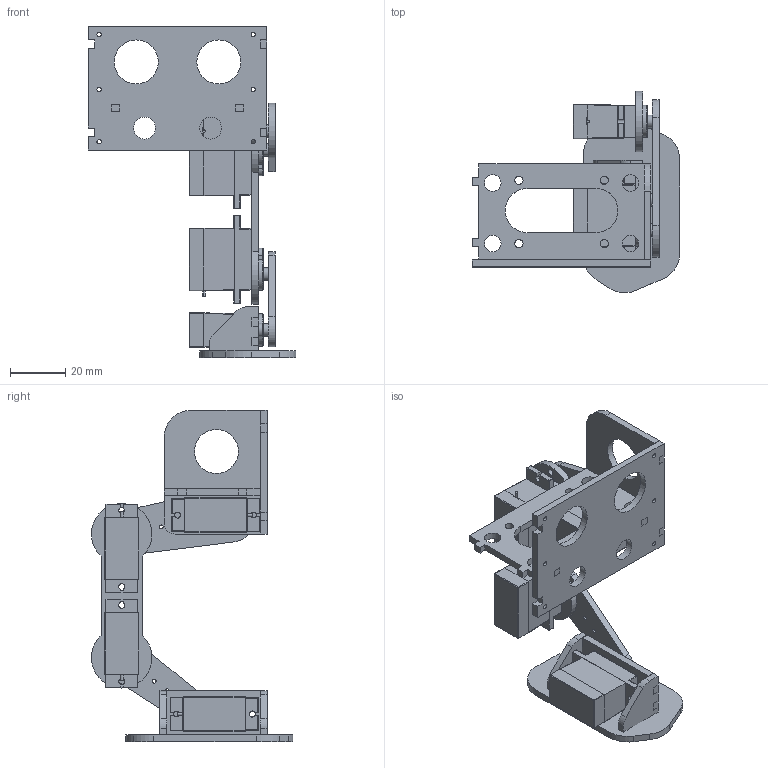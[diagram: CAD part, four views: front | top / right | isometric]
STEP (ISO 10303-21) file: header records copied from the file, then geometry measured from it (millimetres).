
FILE_DESCRIPTION(('FreeCAD Model'),'2;1');
FILE_NAME('D:/Google_drive/freecad/waker_model.stp', '2020-04-01T19:54:12',('Author'),(''), 'Open CASCADE STEP processor 7.3','FreeCAD','Unknown');
FILE_SCHEMA(('AUTOMOTIVE_DESIGN { 1 0 10303 214 1 1 1 1 }'));
Length unit declared in the file: millimetre
Products named in the file (14): sg091; Pad; top; sg092; sg093; tie; knee; akires; sg094; sgholder1; foot; sgholder02; Fillet006; side
Bounding box: 75.5 x 73.07 x 120.5 mm (x, y, z)
Volume: 53156.5 mm3; surface area: 36587.3 mm2
Topology: 14 solids, 14 shells, 701 faces, 1747 edges, 1082 vertices
Faces by surface type: bspline 412, plane 213, cylinder 76
Full cylindrical faces by diameter (mm): 1.4 x8, 1.6 x6, 2.4 x8, 3 x4, 6 x4, 6.7 x4, 8 x2, 16 x3
Entity records: 83211 total; most frequent: CARTESIAN_POINT 54253, ORIENTED_EDGE 3494, PCURVE 3494, DEFINITIONAL_REPRESENTATION 3494, DIRECTION 3257, LINE 2345, VECTOR 2345, B_SPLINE_CURVE_WITH_KNOTS 2220
